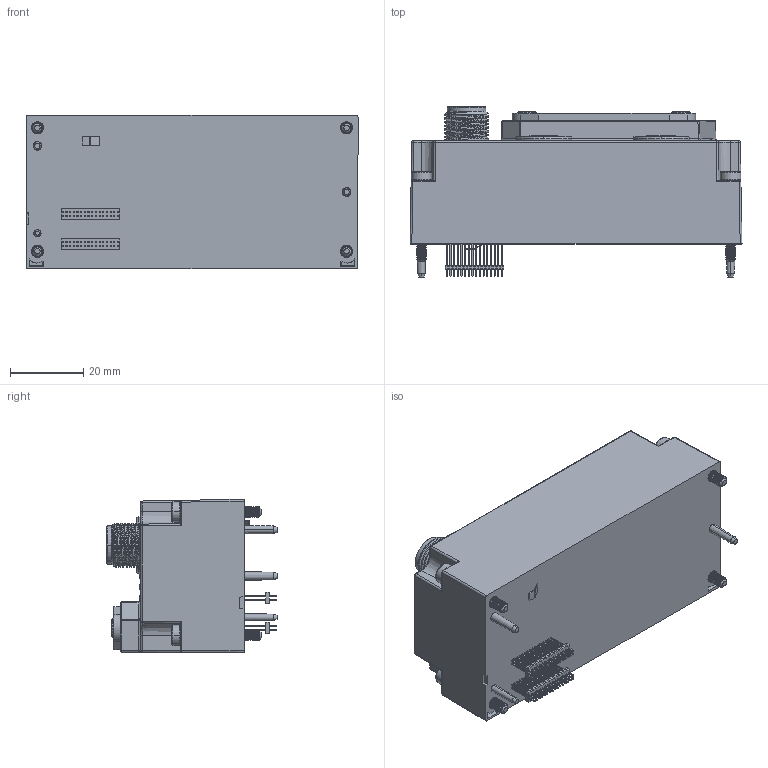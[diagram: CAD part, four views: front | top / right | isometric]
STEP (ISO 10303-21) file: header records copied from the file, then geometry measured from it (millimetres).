
FILE_DESCRIPTION (( 'STEP AP203' ), '1' );
FILE_NAME ('008F21.STEP', '2024-10-24T02:58:56', ( '' ), ( '' ), 'SwSTEP 2.0', 'SolidWorks 2016', '' );
FILE_SCHEMA (( 'CONFIG_CONTROL_DESIGN' ));
Length unit declared in the file: millimetre
Products named in the file (1): 008F21
Bounding box: 90.5 x 46.4 x 41.85 mm (x, y, z)
Volume: 106393.5 mm3; surface area: 25855.5 mm2
Topology: 1 solids, 17 shells, 3069 faces, 8390 edges, 5558 vertices
Faces by surface type: plane 1878, cylinder 561, bspline 428, cone 174, sphere 22, torus 6
Entity records: 149408 total; most frequent: CARTESIAN_POINT 76718, ORIENTED_EDGE 16742, DIRECTION 12331, EDGE_CURVE 8371, VERTEX_POINT 5559, VECTOR 5429, LINE 5429, EDGE_LOOP 3482
